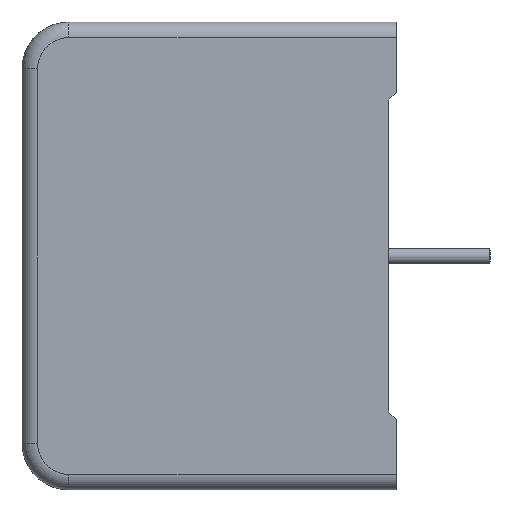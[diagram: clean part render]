
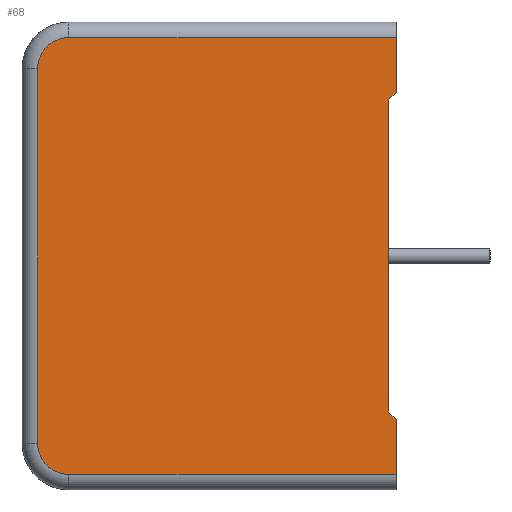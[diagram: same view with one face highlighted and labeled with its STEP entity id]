
A CAD part, left-side view. The second image highlights one B-rep face of the part: STEP entity #68.
In plain terms, the highlighted planar face has unit normal (-1, 0, 0).
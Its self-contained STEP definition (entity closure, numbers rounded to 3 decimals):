
#68 = ADVANCED_FACE ( 'NONE', ( #1359 ), #2788, .F. ) ;
#78 = VECTOR ( 'NONE', #1470, 1000. ) ;
#122 = LINE ( 'NONE', #3549, #4330 ) ;
#148 = DIRECTION ( 'NONE',  ( 0., -1., 0. ) ) ;
#321 = DIRECTION ( 'NONE',  ( 0., 0., 1. ) ) ;
#345 = VECTOR ( 'NONE', #992, 1000. ) ;
#507 = CARTESIAN_POINT ( 'NONE',  ( -21., 21., 12. ) ) ;
#533 = DIRECTION ( 'NONE',  ( 0., 1., 0. ) ) ;
#784 = CARTESIAN_POINT ( 'NONE',  ( -21., 0.5, -10. ) ) ;
#899 = DIRECTION ( 'NONE',  ( 0., 0., -1. ) ) ;
#982 = VERTEX_POINT ( 'NONE', #4315 ) ;
#992 = DIRECTION ( 'NONE',  ( 0., 0., 1. ) ) ;
#1074 = CARTESIAN_POINT ( 'NONE',  ( -21., 0., 10.5 ) ) ;
#1110 = EDGE_CURVE ( 'NONE', #982, #1658, #2302, .T. ) ;
#1210 = DIRECTION ( 'NONE',  ( 0., 0.707, 0.707 ) ) ;
#1215 = CARTESIAN_POINT ( 'NONE',  ( -21., 21., -12. ) ) ;
#1253 = CARTESIAN_POINT ( 'NONE',  ( -21., 23., -12. ) ) ;
#1308 = VECTOR ( 'NONE', #1210, 1000. ) ;
#1359 = FACE_OUTER_BOUND ( 'NONE', #1921, .T. ) ;
#1385 = EDGE_CURVE ( 'NONE', #3041, #982, #1484, .T. ) ;
#1404 = CARTESIAN_POINT ( 'NONE',  ( -21., 24., -14. ) ) ;
#1470 = DIRECTION ( 'NONE',  ( 0., -0.707, 0.707 ) ) ;
#1480 = AXIS2_PLACEMENT_3D ( 'NONE', #1215, #3457, #1584 ) ;
#1484 = CIRCLE ( 'NONE', #1480, 2. ) ;
#1584 = DIRECTION ( 'NONE',  ( 0., 0., -1. ) ) ;
#1602 = EDGE_CURVE ( 'NONE', #2855, #3041, #3168, .T. ) ;
#1610 = DIRECTION ( 'NONE',  ( 0., 0., -1. ) ) ;
#1611 = VERTEX_POINT ( 'NONE', #2619 ) ;
#1657 = VERTEX_POINT ( 'NONE', #4309 ) ;
#1658 = VERTEX_POINT ( 'NONE', #4036 ) ;
#1811 = CARTESIAN_POINT ( 'NONE',  ( -21., 0.5, -10. ) ) ;
#1821 = EDGE_CURVE ( 'NONE', #1657, #2855, #4308, .T. ) ;
#1869 = VERTEX_POINT ( 'NONE', #2334 ) ;
#1883 = CARTESIAN_POINT ( 'NONE',  ( -21., 23., 12. ) ) ;
#1894 = LINE ( 'NONE', #4138, #345 ) ;
#1918 = AXIS2_PLACEMENT_3D ( 'NONE', #507, #2976, #899 ) ;
#1921 = EDGE_LOOP ( 'NONE', ( #3696, #3722, #3734, #3789, #3797, #3828, #3833, #3882, #3893, #3986 ) ) ;
#1965 = EDGE_CURVE ( 'NONE', #1658, #2495, #122, .T. ) ;
#2049 = EDGE_CURVE ( 'NONE', #1611, #1657, #3605, .T. ) ;
#2132 = VECTOR ( 'NONE', #148, 1000. ) ;
#2284 = EDGE_CURVE ( 'NONE', #1869, #1611, #1894, .T. ) ;
#2302 = LINE ( 'NONE', #1404, #2132 ) ;
#2334 = CARTESIAN_POINT ( 'NONE',  ( -21., 0., 10.5 ) ) ;
#2495 = VERTEX_POINT ( 'NONE', #3368 ) ;
#2510 = EDGE_CURVE ( 'NONE', #3933, #1869, #3189, .T. ) ;
#2605 = VERTEX_POINT ( 'NONE', #1811 ) ;
#2619 = CARTESIAN_POINT ( 'NONE',  ( -21., 0., 14. ) ) ;
#2699 = CARTESIAN_POINT ( 'NONE',  ( -21., 24., 14. ) ) ;
#2724 = EDGE_CURVE ( 'NONE', #2605, #3933, #3743, .T. ) ;
#2752 = DIRECTION ( 'NONE',  ( 0., 0., -1. ) ) ;
#2766 = DIRECTION ( 'NONE',  ( 1., 0., 0. ) ) ;
#2788 = PLANE ( 'NONE',  #2888 ) ;
#2849 = CARTESIAN_POINT ( 'NONE',  ( -21., 24., -15. ) ) ;
#2855 = VERTEX_POINT ( 'NONE', #1883 ) ;
#2888 = AXIS2_PLACEMENT_3D ( 'NONE', #2849, #2766, #2752 ) ;
#2935 = EDGE_CURVE ( 'NONE', #2495, #2605, #3712, .T. ) ;
#2976 = DIRECTION ( 'NONE',  ( -1., 0., 0. ) ) ;
#2998 = VECTOR ( 'NONE', #321, 1000. ) ;
#3041 = VERTEX_POINT ( 'NONE', #3194 ) ;
#3131 = VECTOR ( 'NONE', #1610, 1000. ) ;
#3168 = LINE ( 'NONE', #1253, #3131 ) ;
#3189 = LINE ( 'NONE', #1074, #78 ) ;
#3194 = CARTESIAN_POINT ( 'NONE',  ( -21., 23., -12. ) ) ;
#3362 = CARTESIAN_POINT ( 'NONE',  ( -21., 0.5, 10. ) ) ;
#3368 = CARTESIAN_POINT ( 'NONE',  ( -21., 0., -10.5 ) ) ;
#3410 = CARTESIAN_POINT ( 'NONE',  ( -21., 0.5, 10. ) ) ;
#3457 = DIRECTION ( 'NONE',  ( -1., 0., 0. ) ) ;
#3520 = VECTOR ( 'NONE', #533, 1000. ) ;
#3549 = CARTESIAN_POINT ( 'NONE',  ( -21., 0., -15. ) ) ;
#3605 = LINE ( 'NONE', #2699, #3520 ) ;
#3696 = ORIENTED_EDGE ( 'NONE', *, *, #1965, .T. ) ;
#3712 = LINE ( 'NONE', #784, #1308 ) ;
#3722 = ORIENTED_EDGE ( 'NONE', *, *, #2935, .T. ) ;
#3734 = ORIENTED_EDGE ( 'NONE', *, *, #2724, .T. ) ;
#3743 = LINE ( 'NONE', #3410, #2998 ) ;
#3789 = ORIENTED_EDGE ( 'NONE', *, *, #2510, .T. ) ;
#3797 = ORIENTED_EDGE ( 'NONE', *, *, #2284, .T. ) ;
#3828 = ORIENTED_EDGE ( 'NONE', *, *, #2049, .T. ) ;
#3833 = ORIENTED_EDGE ( 'NONE', *, *, #1821, .T. ) ;
#3834 = DIRECTION ( 'NONE',  ( 0., 0., 1. ) ) ;
#3882 = ORIENTED_EDGE ( 'NONE', *, *, #1602, .T. ) ;
#3893 = ORIENTED_EDGE ( 'NONE', *, *, #1385, .T. ) ;
#3933 = VERTEX_POINT ( 'NONE', #3362 ) ;
#3986 = ORIENTED_EDGE ( 'NONE', *, *, #1110, .T. ) ;
#4036 = CARTESIAN_POINT ( 'NONE',  ( -21., 0., -14. ) ) ;
#4138 = CARTESIAN_POINT ( 'NONE',  ( -21., 0., -15. ) ) ;
#4308 = CIRCLE ( 'NONE', #1918, 2. ) ;
#4309 = CARTESIAN_POINT ( 'NONE',  ( -21., 21., 14. ) ) ;
#4315 = CARTESIAN_POINT ( 'NONE',  ( -21., 21., -14. ) ) ;
#4330 = VECTOR ( 'NONE', #3834, 1000. ) ;
